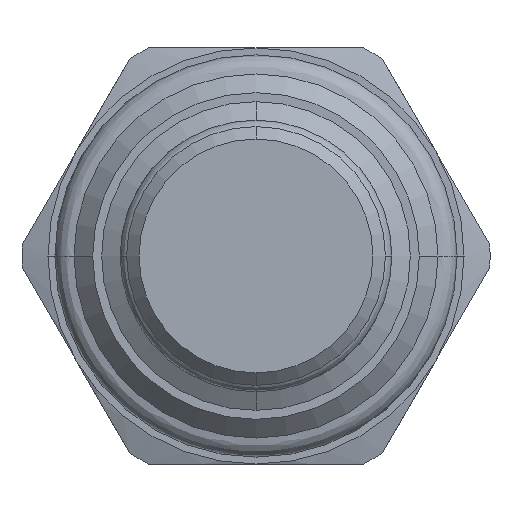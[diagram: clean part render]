
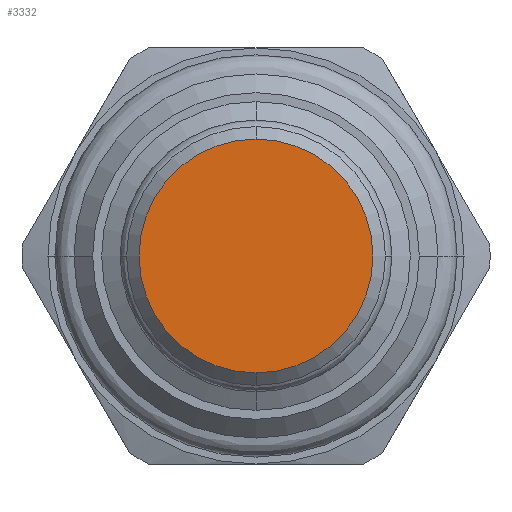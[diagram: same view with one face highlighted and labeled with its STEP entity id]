
A CAD part, front view. The second image highlights one B-rep face of the part: STEP entity #3332.
In plain terms, the highlighted planar face has unit normal (0, -1, 0).
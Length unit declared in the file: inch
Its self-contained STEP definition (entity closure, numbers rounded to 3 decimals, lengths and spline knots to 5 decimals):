
#1083=CARTESIAN_POINT('',(0.,-1.25273,0.));
#1084=DIRECTION('',(0.,1.,0.));
#1085=DIRECTION('',(0.,0.,-1.));
#1086=AXIS2_PLACEMENT_3D('',#1083,#1084,#1085);
#1101=CARTESIAN_POINT('',(0.,-1.25273,0.));
#1102=DIRECTION('',(0.,1.,0.));
#1103=DIRECTION('',(0.,0.,1.));
#1104=AXIS2_PLACEMENT_3D('',#1101,#1102,#1103);
#1749=CARTESIAN_POINT('',(0.,-1.25273,0.281));
#1750=CARTESIAN_POINT('',(0.,-1.25273,-0.281));
#1751=VERTEX_POINT('',#1749);
#1752=VERTEX_POINT('',#1750);
#3322=CARTESIAN_POINT('',(0.,-1.25273,0.));
#3323=DIRECTION('',(0.,-1.,0.));
#3324=DIRECTION('',(0.,0.,1.));
#3325=AXIS2_PLACEMENT_3D('',#3322,#3323,#3324);
#3326=PLANE('',#3325);
#3327=ORIENTED_EDGE('',*,*,#3312,.T.);
#3329=ORIENTED_EDGE('',*,*,#3328,.T.);
#3330=EDGE_LOOP('',(#3327,#3329));
#3331=FACE_OUTER_BOUND('',#3330,.F.);
#3332=ADVANCED_FACE('',(#3331),#3326,.T.);
#1087=CIRCLE('',#1086,0.281);
#1105=CIRCLE('',#1104,0.281);
#3312=EDGE_CURVE('',#1752,#1751,#1087,.T.);
#3328=EDGE_CURVE('',#1751,#1752,#1105,.T.);
